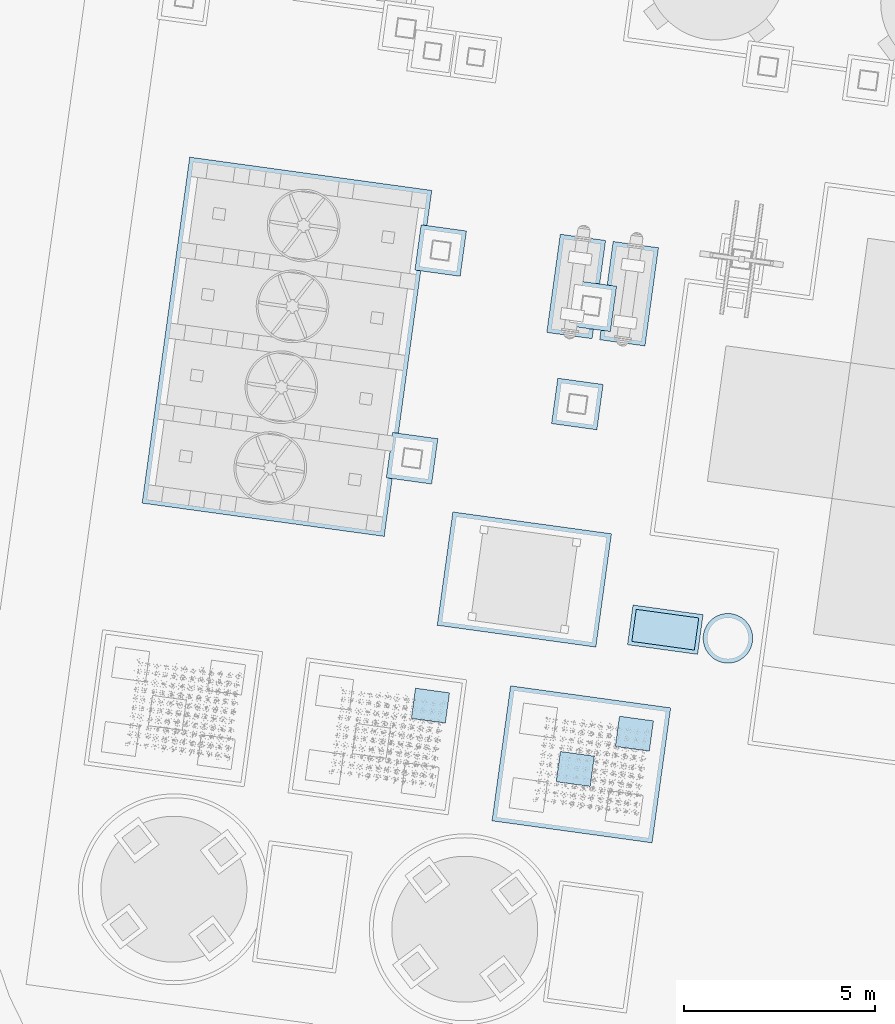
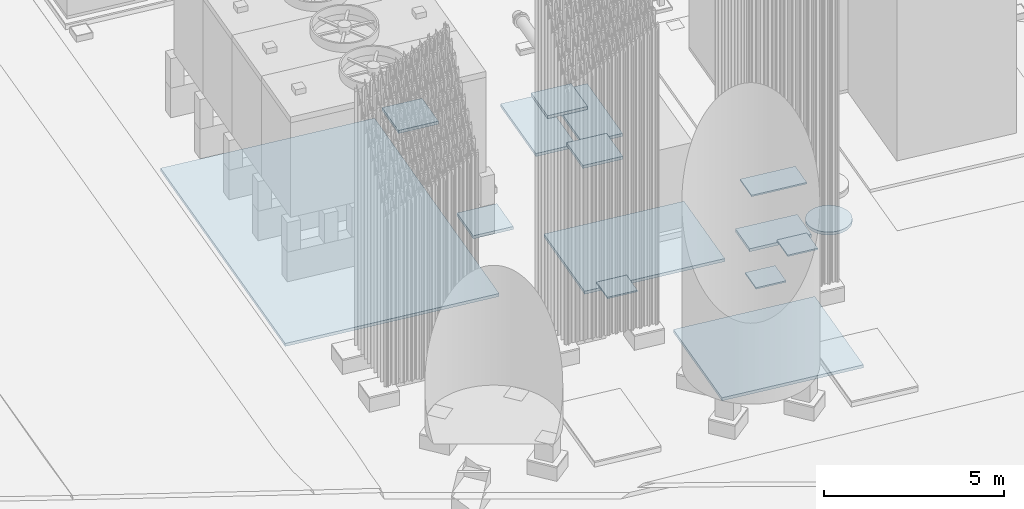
# Not in any storey, part 15 of 75: 15 slabs.
"""IFC4 model written with IfcOpenShell, lengths in metres."""

from ifc_helpers import new_model, si_unit, direction, origin, origin_with_axes, place, context, subcontext, project, spatial, triangles, material, element, save


model = new_model("IFC4")

# Units and contexts
model_context = context("Model", 3, precision=1e-05, world=origin_with_axes(), true_north=direction((0.0, 1.0)))
body_context = subcontext(model_context, "Body", "Model", "MODEL_VIEW")
ifc_project = project(units=[si_unit("AREAUNIT", "SQUARE_METRE"), si_unit("VOLUMEUNIT", "CUBIC_METRE"), si_unit("LENGTHUNIT", "METRE")], contexts=[model_context])

# Site
site_placement = place(None, origin_with_axes())
site = spatial("IfcSite", under=ifc_project, at=site_placement, Name="Parcela industrial Jinhong")

# Slabs
ifc_material_1 = material(Name="Hormigón de limpieza HA-20", Category="Material documentado")
slab_1_placement = place(None, origin())
element("IfcSlab", 1, at=slab_1_placement, inside=site, material=ifc_material_1, Name="Cimentación del evaporador de residuos · apoyo rectangular · capa de limpieza", ObjectType="Cimentación industrial", PredefinedType="USERDEFINED", context=body_context, shape_type="Tessellation", body=[
    triangles([(48.41861, 39.968507, 0.0), (50.113309, 38.675634, 0.0), (48.275596, 38.928292, 0.0), (50.256323, 39.715849, 0.0), (48.41861, 39.968507, 0.1), (50.113309, 38.675634, 0.1), (48.275596, 38.928292, 0.1), (50.256323, 39.715849, 0.1)], [[1, 2, 3], [2, 1, 4], [7, 6, 5], [8, 5, 6], [7, 5, 3], [3, 5, 1], [6, 7, 2], [2, 7, 3], [5, 8, 1], [1, 8, 4], [8, 6, 4], [4, 6, 2]], closed=True),
])
ifc_material_2 = material(Name="Mortero HA-35 de alta resistencia sin retracción", Category="Material documentado")
slab_2_placement = place(None, origin())
element("IfcSlab", 2, at=slab_2_placement, inside=site, material=ifc_material_2, Name="Cimentación del evaporador de residuos · apoyo rectangular · mortero superior de 50 mm", ObjectType="Cimentación industrial", PredefinedType="USERDEFINED", context=body_context, shape_type="Tessellation", body=[
    triangles([(50.027862, 38.788323, 1.77), (48.388285, 39.01374, 1.77), (48.504058, 39.855819, 1.77), (50.143635, 39.630401, 1.77), (50.027862, 38.788323, 1.82), (48.388285, 39.01374, 1.82), (48.504058, 39.855819, 1.82), (50.143635, 39.630401, 1.82)], [[1, 2, 3], [3, 4, 1], [7, 6, 5], [5, 8, 7], [5, 6, 1], [1, 6, 2], [6, 7, 2], [2, 7, 3], [8, 5, 4], [4, 5, 1], [7, 8, 3], [3, 8, 4]], closed=True),
])
slab_3_placement = place(None, origin())
element("IfcSlab", 3, at=slab_3_placement, inside=site, material=ifc_material_1, Name="Cimentación del evaporador de residuos · apoyo circular · capa de limpieza", ObjectType="Cimentación industrial", PredefinedType="USERDEFINED", context=body_context, shape_type="Tessellation", body=[
    triangles([(51.535894, 38.924347, 0.0), (51.54579, 38.965716, 0.0), (51.541181, 38.94495, 0.0), (51.523314, 38.883714, 0.0), (51.529937, 38.903927, 0.0), (51.508103, 38.843992, 0.0), (51.516034, 38.863728, 0.0), (51.490327, 38.805349, 0.0), (51.499531, 38.824525, 0.0), (51.459021, 38.749769, 0.0), (51.480499, 38.786483, 0.0), (51.470061, 38.76795, 0.0), (51.447392, 38.731959, 0.0), (51.435187, 38.714538, 0.0), (51.422419, 38.697526, 0.0), (51.4091, 38.680941, 0.0), (51.395246, 38.6648, 0.0), (51.380872, 38.649122, 0.0), (51.334781, 38.605024, 0.0), (51.267029, 38.553651, 0.0), (51.318482, 38.591355, 0.0), (51.301747, 38.578228, 0.0), (51.284589, 38.565655, 0.0), (51.23078, 38.531396, 0.0), (51.249087, 38.542226, 0.0), (51.212129, 38.52117, 0.0), (51.193153, 38.51156, 0.0), (51.173873, 38.502576, 0.0), (51.154308, 38.494227, 0.0), (51.134482, 38.486524, 0.0), (51.114414, 38.479473, 0.0), (51.094126, 38.473082, 0.0), (51.07364, 38.467358, 0.0), (51.052977, 38.462309, 0.0), (50.990155, 38.451249, 0.0), (51.032161, 38.457937, 0.0), (51.011212, 38.454249, 0.0), (50.9478, 38.447322, 0.0), (50.969009, 38.448939, 0.0), (50.905279, 38.446174, 0.0), (50.926549, 38.4464, 0.0), (50.862776, 38.44781, 0.0), (50.884014, 38.446644, 0.0), (50.82047, 38.452221, 0.0), (50.841587, 38.449669, 0.0), (50.778542, 38.45939, 0.0), (50.799447, 38.455463, 0.0), (50.737174, 38.469286, 0.0), (50.757777, 38.464, 0.0), (50.696541, 38.481867, 0.0), (50.716754, 38.475244, 0.0), (50.656818, 38.497078, 0.0), (50.676555, 38.489147, 0.0), (50.618175, 38.514854, 0.0), (50.637351, 38.505649, 0.0), (50.562596, 38.54616, 0.0), (50.59931, 38.524681, 0.0), (50.580777, 38.53512, 0.0), (50.544785, 38.557788, 0.0), (50.527365, 38.569993, 0.0), (50.510353, 38.582762, 0.0), (50.493768, 38.596081, 0.0), (50.44675, 38.639189, 0.0), (50.477628, 38.609934, 0.0), (50.461949, 38.624309, 0.0), (50.417851, 38.670401, 0.0), (50.432045, 38.654558, 0.0), (50.391055, 38.703435, 0.0), (50.404183, 38.686698, 0.0), (50.366478, 38.738151, 0.0), (50.378482, 38.720591, 0.0), (50.315403, 38.831308, 0.0), (50.355054, 38.756093, 0.0), (50.333997, 38.793052, 0.0), (50.344223, 38.7744, 0.0), (50.324387, 38.812028, 0.0), (50.292299, 38.890767, 0.0), (50.307055, 38.850872, 0.0), (50.299351, 38.870698, 0.0), (50.285909, 38.911054, 0.0), (50.280186, 38.931541, 0.0), (50.270764, 38.97302, 0.0), (50.275135, 38.952203, 0.0), (50.267077, 38.993969, 0.0), (50.264076, 39.015027, 0.0), (50.261766, 39.036172, 0.0), (50.260149, 39.05738, 0.0), (50.259227, 39.078631, 0.0), (50.260636, 39.142405, 0.0), (50.259001, 39.099901, 0.0), (50.259471, 39.121166, 0.0), (50.265048, 39.184711, 0.0), (50.262496, 39.163595, 0.0), (50.272217, 39.226638, 0.0), (50.268289, 39.205733, 0.0), (50.282113, 39.268007, 0.0), (50.276826, 39.247404, 0.0), (50.301974, 39.328625, 0.0), (50.288071, 39.288427, 0.0), (50.294693, 39.30864, 0.0), (50.309905, 39.348362, 0.0), (50.318477, 39.367829, 0.0), (50.347947, 39.424403, 0.0), (50.327681, 39.387005, 0.0), (50.337508, 39.405871, 0.0), (50.395589, 39.494828, 0.0), (50.358987, 39.442585, 0.0), (50.370615, 39.460395, 0.0), (50.38282, 39.477816, 0.0), (50.467385, 39.573136, 0.0), (50.408907, 39.511413, 0.0), (50.422761, 39.527554, 0.0), (50.437135, 39.543232, 0.0), (50.452015, 39.558432, 0.0), (50.516262, 39.614125, 0.0), (50.483227, 39.58733, 0.0), (50.499525, 39.600999, 0.0), (50.550978, 39.638703, 0.0), (50.533419, 39.626699, 0.0), (50.587228, 39.660958, 0.0), (50.568921, 39.650127, 0.0), (50.624855, 39.680794, 0.0), (50.605878, 39.671184, 0.0), (50.644135, 39.689777, 0.0), (50.663699, 39.698127, 0.0), (50.683526, 39.70583, 0.0), (50.703593, 39.712881, 0.0), (50.723882, 39.719271, 0.0), (50.744367, 39.724996, 0.0), (50.76503, 39.730045, 0.0), (50.827854, 39.741105, 0.0), (50.785847, 39.734417, 0.0), (50.806796, 39.738105, 0.0), (50.870207, 39.745031, 0.0), (50.848998, 39.743415, 0.0), (50.912728, 39.74618, 0.0), (50.891458, 39.745954, 0.0), (50.955232, 39.744544, 0.0), (50.933993, 39.74571, 0.0), (50.997538, 39.740133, 0.0), (50.976421, 39.742685, 0.0), (51.039466, 39.732963, 0.0), (51.018561, 39.736891, 0.0), (51.080833, 39.723068, 0.0), (51.06023, 39.728354, 0.0), (51.121467, 39.710487, 0.0), (51.101253, 39.71711, 0.0), (51.16119, 39.695276, 0.0), (51.141452, 39.703207, 0.0), (51.199833, 39.6775, 0.0), (51.180657, 39.686704, 0.0), (51.218697, 39.667673, 0.0), (51.23723, 39.657234, 0.0), (51.255412, 39.646194, 0.0), (51.273222, 39.634566, 0.0), (51.290643, 39.62236, 0.0), (51.307654, 39.609592, 0.0), (51.32424, 39.596273, 0.0), (51.34038, 39.58242, 0.0), (51.356059, 39.568045, 0.0), (51.400157, 39.521953, 0.0), (51.371259, 39.553165, 0.0), (51.385963, 39.537796, 0.0), (51.426953, 39.488919, 0.0), (51.413825, 39.505656, 0.0), (51.439525, 39.471762, 0.0), (51.473785, 39.417954, 0.0), (51.45153, 39.454203, 0.0), (51.462954, 39.436261, 0.0), (51.502604, 39.361046, 0.0), (51.484011, 39.399302, 0.0), (51.49362, 39.380326, 0.0), (51.510953, 39.341482, 0.0), (51.518657, 39.321656, 0.0), (51.525708, 39.301587, 0.0), (51.532098, 39.2813, 0.0), (51.537822, 39.260813, 0.0), (51.542872, 39.240151, 0.0), (51.553931, 39.177327, 0.0), (51.547243, 39.219333, 0.0), (51.550931, 39.198385, 0.0), (51.557858, 39.134973, 0.0), (51.556242, 39.156182, 0.0), (51.559006, 39.092453, 0.0), (51.55878, 39.113723, 0.0), (51.557371, 39.049948, 0.0), (51.558537, 39.071188, 0.0), (51.552959, 39.007642, 0.0), (51.555511, 39.028759, 0.0), (51.549718, 38.986621, 0.0), (51.365992, 38.633922, 0.0), (51.350623, 38.619217, 0.0), (51.535894, 38.924347, 0.1), (51.54579, 38.965716, 0.1), (51.541181, 38.94495, 0.1), (51.523314, 38.883714, 0.1), (51.529937, 38.903927, 0.1), (51.508103, 38.843992, 0.1), (51.516034, 38.863728, 0.1), (51.490327, 38.805349, 0.1), (51.499531, 38.824525, 0.1), (51.459021, 38.749769, 0.1), (51.480499, 38.786483, 0.1), (51.470061, 38.76795, 0.1), (51.447392, 38.731959, 0.1), (51.435187, 38.714538, 0.1), (51.422419, 38.697526, 0.1), (51.4091, 38.680941, 0.1), (51.395246, 38.6648, 0.1), (51.380872, 38.649122, 0.1), (51.334781, 38.605024, 0.1), (51.267029, 38.553651, 0.1), (51.318482, 38.591355, 0.1), (51.301747, 38.578228, 0.1), (51.284589, 38.565655, 0.1), (51.23078, 38.531396, 0.1), (51.249087, 38.542226, 0.1), (51.212129, 38.52117, 0.1), (51.193153, 38.51156, 0.1), (51.173873, 38.502576, 0.1), (51.154308, 38.494227, 0.1), (51.134482, 38.486524, 0.1), (51.114414, 38.479473, 0.1), (51.094126, 38.473082, 0.1), (51.07364, 38.467358, 0.1), (51.052977, 38.462309, 0.1), (50.990155, 38.451249, 0.1), (51.032161, 38.457937, 0.1), (51.011212, 38.454249, 0.1), (50.9478, 38.447322, 0.1), (50.969009, 38.448939, 0.1), (50.905279, 38.446174, 0.1), (50.926549, 38.4464, 0.1), (50.862776, 38.44781, 0.1), (50.884014, 38.446644, 0.1), (50.82047, 38.452221, 0.1), (50.841587, 38.449669, 0.1), (50.778542, 38.45939, 0.1), (50.799447, 38.455463, 0.1), (50.737174, 38.469286, 0.1), (50.757777, 38.464, 0.1), (50.696541, 38.481867, 0.1), (50.716754, 38.475244, 0.1), (50.656818, 38.497078, 0.1), (50.676555, 38.489147, 0.1), (50.618175, 38.514854, 0.1), (50.637351, 38.505649, 0.1), (50.562596, 38.54616, 0.1), (50.59931, 38.524681, 0.1), (50.580777, 38.53512, 0.1), (50.544785, 38.557788, 0.1), (50.527365, 38.569993, 0.1), (50.510353, 38.582762, 0.1), (50.493768, 38.596081, 0.1), (50.44675, 38.639189, 0.1), (50.477628, 38.609934, 0.1), (50.461949, 38.624309, 0.1), (50.417851, 38.670401, 0.1), (50.432045, 38.654558, 0.1), (50.391055, 38.703435, 0.1), (50.404183, 38.686698, 0.1), (50.366478, 38.738151, 0.1), (50.378482, 38.720591, 0.1), (50.315403, 38.831308, 0.1), (50.355054, 38.756093, 0.1), (50.333997, 38.793052, 0.1), (50.344223, 38.7744, 0.1), (50.324387, 38.812028, 0.1), (50.292299, 38.890767, 0.1), (50.307055, 38.850872, 0.1), (50.299351, 38.870698, 0.1), (50.285909, 38.911054, 0.1), (50.280186, 38.931541, 0.1), (50.270764, 38.97302, 0.1), (50.275135, 38.952203, 0.1), (50.267077, 38.993969, 0.1), (50.264076, 39.015027, 0.1), (50.261766, 39.036172, 0.1), (50.260149, 39.05738, 0.1), (50.259227, 39.078631, 0.1), (50.260636, 39.142405, 0.1), (50.259001, 39.099901, 0.1), (50.259471, 39.121166, 0.1), (50.265048, 39.184711, 0.1), (50.262496, 39.163595, 0.1), (50.272217, 39.226638, 0.1), (50.268289, 39.205733, 0.1), (50.282113, 39.268007, 0.1), (50.276826, 39.247404, 0.1), (50.301974, 39.328625, 0.1), (50.288071, 39.288427, 0.1), (50.294693, 39.30864, 0.1), (50.309905, 39.348362, 0.1), (50.318477, 39.367829, 0.1), (50.347947, 39.424403, 0.1), (50.327681, 39.387005, 0.1), (50.337508, 39.405871, 0.1), (50.395589, 39.494828, 0.1), (50.358987, 39.442585, 0.1), (50.370615, 39.460395, 0.1), (50.38282, 39.477816, 0.1), (50.467385, 39.573136, 0.1), (50.408907, 39.511413, 0.1), (50.422761, 39.527554, 0.1), (50.437135, 39.543232, 0.1), (50.452015, 39.558432, 0.1), (50.516262, 39.614125, 0.1), (50.483227, 39.58733, 0.1), (50.499525, 39.600999, 0.1), (50.550978, 39.638703, 0.1), (50.533419, 39.626699, 0.1), (50.587228, 39.660958, 0.1), (50.568921, 39.650127, 0.1), (50.624855, 39.680794, 0.1), (50.605878, 39.671184, 0.1), (50.644135, 39.689777, 0.1), (50.663699, 39.698127, 0.1), (50.683526, 39.70583, 0.1), (50.703593, 39.712881, 0.1), (50.723882, 39.719271, 0.1), (50.744367, 39.724996, 0.1), (50.76503, 39.730045, 0.1), (50.827854, 39.741105, 0.1), (50.785847, 39.734417, 0.1), (50.806796, 39.738105, 0.1), (50.870207, 39.745031, 0.1), (50.848998, 39.743415, 0.1), (50.912728, 39.74618, 0.1), (50.891458, 39.745954, 0.1), (50.955232, 39.744544, 0.1), (50.933993, 39.74571, 0.1), (50.997538, 39.740133, 0.1), (50.976421, 39.742685, 0.1), (51.039466, 39.732963, 0.1), (51.018561, 39.736891, 0.1), (51.080833, 39.723068, 0.1), (51.06023, 39.728354, 0.1), (51.121467, 39.710487, 0.1), (51.101253, 39.71711, 0.1), (51.16119, 39.695276, 0.1), (51.141452, 39.703207, 0.1), (51.199833, 39.6775, 0.1), (51.180657, 39.686704, 0.1), (51.218697, 39.667673, 0.1), (51.23723, 39.657234, 0.1), (51.255412, 39.646194, 0.1), (51.273222, 39.634566, 0.1), (51.290643, 39.62236, 0.1), (51.307654, 39.609592, 0.1), (51.32424, 39.596273, 0.1), (51.34038, 39.58242, 0.1), (51.356059, 39.568045, 0.1), (51.400157, 39.521953, 0.1), (51.371259, 39.553165, 0.1), (51.385963, 39.537796, 0.1), (51.426953, 39.488919, 0.1), (51.413825, 39.505656, 0.1), (51.439525, 39.471762, 0.1), (51.473785, 39.417954, 0.1), (51.45153, 39.454203, 0.1), (51.462954, 39.436261, 0.1), (51.502604, 39.361046, 0.1), (51.484011, 39.399302, 0.1), (51.49362, 39.380326, 0.1), (51.510953, 39.341482, 0.1), (51.518657, 39.321656, 0.1), (51.525708, 39.301587, 0.1), (51.532098, 39.2813, 0.1), (51.537822, 39.260813, 0.1), (51.542872, 39.240151, 0.1), (51.553931, 39.177327, 0.1), (51.547243, 39.219333, 0.1), (51.550931, 39.198385, 0.1), (51.557858, 39.134973, 0.1), (51.556242, 39.156182, 0.1), (51.559006, 39.092453, 0.1), (51.55878, 39.113723, 0.1), (51.557371, 39.049948, 0.1), (51.558537, 39.071188, 0.1), (51.552959, 39.007642, 0.1), (51.555511, 39.028759, 0.1), (51.549718, 38.986621, 0.1), (51.365992, 38.633922, 0.1), (51.350623, 38.619217, 0.1)], [[1, 2, 3], [4, 1, 5], [6, 4, 7], [8, 6, 9], [10, 8, 11], [11, 12, 10], [10, 13, 14], [14, 15, 16], [16, 17, 18], [16, 19, 20], [20, 21, 22], [20, 22, 23], [24, 20, 25], [20, 24, 26], [26, 27, 28], [28, 29, 30], [30, 31, 32], [32, 33, 34], [35, 36, 37], [38, 35, 39], [40, 38, 41], [42, 40, 43], [44, 42, 45], [46, 44, 47], [48, 46, 49], [50, 48, 51], [52, 50, 53], [54, 52, 55], [56, 54, 57], [57, 58, 56], [56, 59, 60], [60, 61, 62], [63, 64, 65], [66, 63, 67], [68, 66, 69], [70, 68, 71], [72, 73, 74], [73, 75, 74], [74, 76, 72], [77, 78, 79], [78, 80, 81], [82, 81, 83], [81, 82, 84], [84, 85, 86], [86, 87, 88], [89, 90, 91], [92, 89, 93], [94, 92, 95], [96, 94, 97], [98, 96, 99], [99, 100, 98], [98, 101, 102], [103, 104, 105], [106, 103, 107], [106, 108, 109], [110, 106, 111], [111, 112, 113], [113, 114, 110], [115, 116, 117], [118, 115, 119], [120, 118, 121], [122, 120, 123], [120, 122, 124], [124, 125, 126], [126, 127, 128], [128, 129, 130], [131, 132, 133], [134, 131, 135], [136, 134, 137], [138, 136, 139], [140, 138, 141], [142, 140, 143], [144, 142, 145], [146, 144, 147], [148, 146, 149], [150, 148, 151], [148, 150, 152], [152, 153, 154], [154, 155, 156], [156, 157, 158], [158, 159, 160], [161, 162, 163], [164, 161, 165], [161, 164, 166], [167, 168, 169], [170, 167, 171], [171, 172, 170], [170, 173, 174], [174, 175, 176], [176, 177, 178], [179, 180, 181], [182, 179, 183], [184, 182, 185], [186, 184, 187], [188, 186, 189], [2, 188, 190], [1, 4, 2], [6, 2, 4], [6, 16, 20], [10, 14, 16], [191, 16, 18], [21, 20, 19], [28, 20, 26], [32, 28, 30], [35, 32, 34], [35, 34, 36], [40, 42, 38], [52, 62, 46], [48, 50, 46], [52, 46, 50], [20, 46, 62], [56, 60, 62], [63, 62, 64], [62, 66, 68], [73, 78, 70], [73, 72, 78], [80, 78, 77], [84, 78, 81], [90, 86, 88], [92, 94, 89], [96, 98, 94], [86, 98, 102], [104, 103, 102], [108, 106, 107], [111, 113, 110], [106, 124, 102], [124, 118, 120], [128, 124, 126], [132, 128, 130], [128, 132, 131], [136, 138, 134], [140, 142, 138], [144, 146, 142], [148, 142, 146], [148, 161, 142], [154, 156, 158], [161, 160, 162], [168, 161, 166], [167, 170, 168], [176, 170, 174], [180, 176, 178], [176, 180, 179], [184, 186, 182], [188, 2, 186], [10, 6, 8], [16, 6, 10], [19, 191, 192], [28, 32, 20], [42, 35, 38], [20, 35, 42], [56, 52, 54], [44, 46, 42], [63, 66, 62], [68, 70, 78], [102, 84, 86], [90, 89, 86], [115, 106, 116], [106, 102, 103], [106, 110, 116], [115, 118, 124], [138, 131, 134], [142, 161, 138], [154, 148, 152], [154, 161, 148], [160, 161, 158], [161, 168, 170], [186, 179, 182], [2, 179, 186], [62, 161, 20], [19, 16, 191], [46, 20, 42], [62, 52, 56], [62, 78, 84], [98, 89, 94], [124, 106, 115], [62, 102, 124], [124, 138, 161], [161, 154, 158], [179, 170, 176], [179, 161, 170], [179, 2, 6], [35, 20, 32], [78, 62, 68], [102, 62, 84], [138, 124, 131], [20, 161, 179], [161, 62, 124], [89, 98, 86], [131, 124, 128], [20, 179, 6], [195, 194, 193], [197, 193, 196], [199, 196, 198], [201, 198, 200], [203, 200, 202], [202, 204, 203], [206, 205, 202], [208, 207, 206], [210, 209, 208], [212, 211, 208], [214, 213, 212], [215, 214, 212], [217, 212, 216], [218, 216, 212], [220, 219, 218], [222, 221, 220], [224, 223, 222], [226, 225, 224], [229, 228, 227], [231, 227, 230], [233, 230, 232], [235, 232, 234], [237, 234, 236], [239, 236, 238], [241, 238, 240], [243, 240, 242], [245, 242, 244], [247, 244, 246], [249, 246, 248], [248, 250, 249], [252, 251, 248], [254, 253, 252], [257, 256, 255], [259, 255, 258], [261, 258, 260], [263, 260, 262], [266, 265, 264], [266, 267, 265], [264, 268, 266], [271, 270, 269], [273, 272, 270], [275, 273, 274], [276, 274, 273], [278, 277, 276], [280, 279, 278], [283, 282, 281], [285, 281, 284], [287, 284, 286], [289, 286, 288], [291, 288, 290], [290, 292, 291], [294, 293, 290], [297, 296, 295], [299, 295, 298], [301, 300, 298], [303, 298, 302], [305, 304, 303], [302, 306, 305], [309, 308, 307], [311, 307, 310], [313, 310, 312], [315, 312, 314], [316, 314, 312], [318, 317, 316], [320, 319, 318], [322, 321, 320], [325, 324, 323], [327, 323, 326], [329, 326, 328], [331, 328, 330], [333, 330, 332], [335, 332, 334], [337, 334, 336], [339, 336, 338], [341, 338, 340], [343, 340, 342], [344, 342, 340], [346, 345, 344], [348, 347, 346], [350, 349, 348], [352, 351, 350], [355, 354, 353], [357, 353, 356], [358, 356, 353], [361, 360, 359], [363, 359, 362], [362, 364, 363], [366, 365, 362], [368, 367, 366], [370, 369, 368], [373, 372, 371], [375, 371, 374], [377, 374, 376], [379, 376, 378], [381, 378, 380], [382, 380, 194], [194, 196, 193], [196, 194, 198], [212, 208, 198], [208, 206, 202], [210, 208, 383], [211, 212, 213], [218, 212, 220], [222, 220, 224], [226, 224, 227], [228, 226, 227], [230, 234, 232], [238, 254, 244], [238, 242, 240], [242, 238, 244], [254, 238, 212], [254, 252, 248], [256, 254, 255], [260, 258, 254], [262, 270, 265], [270, 264, 265], [269, 270, 272], [273, 270, 276], [280, 278, 282], [281, 286, 284], [286, 290, 288], [294, 290, 278], [294, 295, 296], [299, 298, 300], [302, 305, 303], [294, 316, 298], [312, 310, 316], [318, 316, 320], [322, 320, 324], [323, 324, 320], [326, 330, 328], [330, 334, 332], [334, 338, 336], [338, 334, 340], [334, 353, 340], [350, 348, 346], [354, 352, 353], [358, 353, 360], [360, 362, 359], [366, 362, 368], [370, 368, 372], [371, 372, 368], [374, 378, 376], [378, 194, 380], [200, 198, 202], [202, 198, 208], [384, 383, 211], [212, 224, 220], [230, 227, 234], [234, 227, 212], [246, 244, 248], [234, 238, 236], [254, 258, 255], [270, 262, 260], [278, 276, 294], [278, 281, 282], [308, 298, 307], [295, 294, 298], [308, 302, 298], [316, 310, 307], [326, 323, 330], [330, 353, 334], [344, 340, 346], [340, 353, 346], [350, 353, 352], [362, 360, 353], [374, 371, 378], [378, 371, 194], [212, 353, 254], [383, 208, 211], [234, 212, 238], [248, 244, 254], [276, 270, 254], [286, 281, 290], [307, 298, 316], [316, 294, 254], [353, 330, 316], [350, 346, 353], [368, 362, 371], [362, 353, 371], [198, 194, 371], [224, 212, 227], [260, 254, 270], [276, 254, 294], [323, 316, 330], [371, 353, 212], [316, 254, 353], [278, 290, 281], [320, 316, 323], [198, 371, 212], [195, 193, 3], [3, 193, 1], [194, 195, 2], [2, 195, 3], [193, 197, 1], [1, 197, 5], [197, 196, 5], [5, 196, 4], [196, 199, 4], [4, 199, 7], [199, 198, 7], [7, 198, 6], [198, 201, 6], [6, 201, 9], [201, 200, 9], [9, 200, 8], [200, 203, 8], [8, 203, 11], [204, 202, 12], [12, 202, 10], [203, 204, 11], [11, 204, 12], [202, 205, 10], [10, 205, 13], [205, 206, 13], [13, 206, 14], [206, 207, 14], [14, 207, 15], [207, 208, 15], [15, 208, 16], [208, 209, 16], [16, 209, 17], [209, 210, 17], [17, 210, 18], [211, 213, 19], [19, 213, 21], [213, 214, 21], [21, 214, 22], [215, 212, 23], [23, 212, 20], [214, 215, 22], [22, 215, 23], [212, 217, 20], [20, 217, 25], [217, 216, 25], [25, 216, 24], [216, 218, 24], [24, 218, 26], [218, 219, 26], [26, 219, 27], [219, 220, 27], [27, 220, 28], [220, 221, 28], [28, 221, 29], [221, 222, 29], [29, 222, 30], [222, 223, 30], [30, 223, 31], [223, 224, 31], [31, 224, 32], [224, 225, 32], [32, 225, 33], [225, 226, 33], [33, 226, 34], [226, 228, 34], [34, 228, 36], [229, 227, 37], [37, 227, 35], [228, 229, 36], [36, 229, 37], [227, 231, 35], [35, 231, 39], [231, 230, 39], [39, 230, 38], [230, 233, 38], [38, 233, 41], [233, 232, 41], [41, 232, 40], [232, 235, 40], [40, 235, 43], [235, 234, 43], [43, 234, 42], [234, 237, 42], [42, 237, 45], [237, 236, 45], [45, 236, 44], [236, 239, 44], [44, 239, 47], [239, 238, 47], [47, 238, 46], [238, 241, 46], [46, 241, 49], [241, 240, 49], [49, 240, 48], [240, 243, 48], [48, 243, 51], [243, 242, 51], [51, 242, 50], [242, 245, 50], [50, 245, 53], [245, 244, 53], [53, 244, 52], [244, 247, 52], [52, 247, 55], [247, 246, 55], [55, 246, 54], [246, 249, 54], [54, 249, 57], [250, 248, 58], [58, 248, 56], [249, 250, 57], [57, 250, 58], [248, 251, 56], [56, 251, 59], [251, 252, 59], [59, 252, 60], [252, 253, 60], [60, 253, 61], [253, 254, 61], [61, 254, 62], [254, 256, 62], [62, 256, 64], [257, 255, 65], [65, 255, 63], [256, 257, 64], [64, 257, 65], [255, 259, 63], [63, 259, 67], [259, 258, 67], [67, 258, 66], [258, 261, 66], [66, 261, 69], [261, 260, 69], [69, 260, 68], [260, 263, 68], [68, 263, 71], [263, 262, 71], [71, 262, 70], [262, 265, 70], [70, 265, 73], [265, 267, 73], [73, 267, 75], [267, 266, 75], [75, 266, 74], [268, 264, 76], [76, 264, 72], [266, 268, 74], [74, 268, 76], [264, 270, 72], [72, 270, 78], [271, 269, 79], [79, 269, 77], [270, 271, 78], [78, 271, 79], [269, 272, 77], [77, 272, 80], [272, 273, 80], [80, 273, 81], [273, 275, 81], [81, 275, 83], [275, 274, 83], [83, 274, 82], [274, 276, 82], [82, 276, 84], [276, 277, 84], [84, 277, 85], [277, 278, 85], [85, 278, 86], [278, 279, 86], [86, 279, 87], [279, 280, 87], [87, 280, 88], [280, 282, 88], [88, 282, 90], [283, 281, 91], [91, 281, 89], [282, 283, 90], [90, 283, 91], [281, 285, 89], [89, 285, 93], [285, 284, 93], [93, 284, 92], [284, 287, 92], [92, 287, 95], [287, 286, 95], [95, 286, 94], [286, 289, 94], [94, 289, 97], [289, 288, 97], [97, 288, 96], [288, 291, 96], [96, 291, 99], [292, 290, 100], [100, 290, 98], [291, 292, 99], [99, 292, 100], [290, 293, 98], [98, 293, 101], [293, 294, 101], [101, 294, 102], [294, 296, 102], [102, 296, 104], [297, 295, 105], [105, 295, 103], [296, 297, 104], [104, 297, 105], [295, 299, 103], [103, 299, 107], [299, 300, 107], [107, 300, 108], [301, 298, 109], [109, 298, 106], [300, 301, 108], [108, 301, 109], [298, 303, 106], [106, 303, 111], [303, 304, 111], [111, 304, 112], [304, 305, 112], [112, 305, 113], [306, 302, 114], [114, 302, 110], [305, 306, 113], [113, 306, 114], [302, 308, 110], [110, 308, 116], [309, 307, 117], [117, 307, 115], [308, 309, 116], [116, 309, 117], [307, 311, 115], [115, 311, 119], [311, 310, 119], [119, 310, 118], [310, 313, 118], [118, 313, 121], [313, 312, 121], [121, 312, 120], [312, 315, 120], [120, 315, 123], [315, 314, 123], [123, 314, 122], [314, 316, 122], [122, 316, 124], [316, 317, 124], [124, 317, 125], [317, 318, 125], [125, 318, 126], [318, 319, 126], [126, 319, 127], [319, 320, 127], [127, 320, 128], [320, 321, 128], [128, 321, 129], [321, 322, 129], [129, 322, 130], [322, 324, 130], [130, 324, 132], [325, 323, 133], [133, 323, 131], [324, 325, 132], [132, 325, 133], [323, 327, 131], [131, 327, 135], [327, 326, 135], [135, 326, 134], [326, 329, 134], [134, 329, 137], [329, 328, 137], [137, 328, 136], [328, 331, 136], [136, 331, 139], [331, 330, 139], [139, 330, 138], [330, 333, 138], [138, 333, 141], [333, 332, 141], [141, 332, 140], [332, 335, 140], [140, 335, 143], [335, 334, 143], [143, 334, 142], [334, 337, 142], [142, 337, 145], [337, 336, 145], [145, 336, 144], [336, 339, 144], [144, 339, 147], [339, 338, 147], [147, 338, 146], [338, 341, 146], [146, 341, 149], [341, 340, 149], [149, 340, 148], [340, 343, 148], [148, 343, 151], [343, 342, 151], [151, 342, 150], [342, 344, 150], [150, 344, 152], [344, 345, 152], [152, 345, 153], [345, 346, 153], [153, 346, 154], [346, 347, 154], [154, 347, 155], [347, 348, 155], [155, 348, 156], [348, 349, 156], [156, 349, 157], [349, 350, 157], [157, 350, 158], [350, 351, 158], [158, 351, 159], [351, 352, 159], [159, 352, 160], [352, 354, 160], [160, 354, 162], [355, 353, 163], [163, 353, 161], [354, 355, 162], [162, 355, 163], [353, 357, 161], [161, 357, 165], [357, 356, 165], [165, 356, 164], [356, 358, 164], [164, 358, 166], [358, 360, 166], [166, 360, 168], [361, 359, 169], [169, 359, 167], [360, 361, 168], [168, 361, 169], [359, 363, 167], [167, 363, 171], [364, 362, 172], [172, 362, 170], [363, 364, 171], [171, 364, 172], [362, 365, 170], [170, 365, 173], [365, 366, 173], [173, 366, 174], [366, 367, 174], [174, 367, 175], [367, 368, 175], [175, 368, 176], [368, 369, 176], [176, 369, 177], [369, 370, 177], [177, 370, 178], [370, 372, 178], [178, 372, 180], [373, 371, 181], [181, 371, 179], [372, 373, 180], [180, 373, 181], [371, 375, 179], [179, 375, 183], [375, 374, 183], [183, 374, 182], [374, 377, 182], [182, 377, 185], [377, 376, 185], [185, 376, 184], [376, 379, 184], [184, 379, 187], [379, 378, 187], [187, 378, 186], [378, 381, 186], [186, 381, 189], [381, 380, 189], [189, 380, 188], [382, 194, 190], [190, 194, 2], [380, 382, 188], [188, 382, 190], [210, 383, 18], [18, 383, 191], [384, 211, 192], [192, 211, 19], [383, 384, 191], [191, 384, 192]], closed=True),
])
slab_4_placement = place(None, origin())
element("IfcSlab", 4, at=slab_4_placement, inside=site, material=ifc_material_1, Name="Cimentación del posenfriador WE441-PLAN · capa de limpieza", ObjectType="Cimentación industrial", PredefinedType="USERDEFINED", context=body_context, shape_type="Tessellation", body=[
    triangles([(46.157285, 47.118274, -1.0), (46.511415, 49.694044, -1.0), (47.700232, 49.530599, -1.0), (47.346102, 46.954829, -1.0), (46.157285, 47.118274, -0.9), (46.511415, 49.694044, -0.9), (47.700232, 49.530599, -0.9), (47.346102, 46.954829, -0.9)], [[1, 2, 3], [3, 4, 1], [7, 6, 5], [5, 8, 7], [5, 6, 1], [1, 6, 2], [6, 7, 2], [2, 7, 3], [8, 5, 4], [4, 5, 1], [7, 8, 3], [3, 8, 4]], closed=True),
])
slab_5_placement = place(None, origin())
element("IfcSlab", 5, at=slab_5_placement, inside=site, material=ifc_material_1, Name="Cimentación del posenfriador WE442-PLAN · capa de limpieza", ObjectType="Cimentación industrial", PredefinedType="USERDEFINED", context=body_context, shape_type="Tessellation", body=[
    triangles([(47.544238, 46.927588, -1.0), (47.898368, 49.503358, -1.0), (49.087185, 49.339913, -1.0), (48.733055, 46.764143, -1.0), (47.544238, 46.927588, -0.9), (47.898368, 49.503358, -0.9), (49.087185, 49.339913, -0.9), (48.733055, 46.764143, -0.9)], [[1, 2, 3], [3, 4, 1], [7, 6, 5], [5, 8, 7], [5, 6, 1], [1, 6, 2], [6, 7, 2], [2, 7, 3], [8, 5, 4], [4, 5, 1], [7, 8, 3], [3, 8, 4]], closed=True),
])
slab_6_placement = place(None, origin())
element("IfcSlab", 6, at=slab_6_placement, inside=site, material=ifc_material_2, Name="Cimentación del vaporizador LV1802B · mortero de apoyo 2", ObjectType="Cimentación industrial", PredefinedType="USERDEFINED", context=body_context, shape_type="Tessellation", body=[
    triangles([(43.605992, 37.665408, 1.565), (43.497028, 36.872863, 1.565), (42.605416, 36.995447, 1.565), (42.714379, 37.787991, 1.565), (43.605992, 37.665408, 1.615), (43.497028, 36.872863, 1.615), (42.605416, 36.995447, 1.615), (42.714379, 37.787991, 1.615)], [[1, 2, 3], [3, 4, 1], [7, 6, 5], [5, 8, 7], [5, 6, 1], [1, 6, 2], [6, 7, 2], [2, 7, 3], [8, 5, 4], [4, 5, 1], [7, 8, 3], [3, 8, 4]], closed=True),
])
slab_7_placement = place(None, origin())
element("IfcSlab", 7, at=slab_7_placement, inside=site, material=ifc_material_1, Name="Cimentación del vaporizador LV1802C · capa de limpieza", ObjectType="Cimentación industrial", PredefinedType="USERDEFINED", context=body_context, shape_type="Tessellation", body=[
    triangles([(49.406422, 37.271697, -1.0), (48.919629, 33.731004, -1.0), (44.721124, 34.308236, -1.0), (45.207917, 37.84893, -1.0), (49.406422, 37.271697, -0.9), (48.919629, 33.731004, -0.9), (44.721124, 34.308236, -0.9), (45.207917, 37.84893, -0.9)], [[1, 2, 3], [3, 4, 1], [7, 6, 5], [5, 8, 7], [5, 6, 1], [1, 6, 2], [6, 7, 2], [2, 7, 3], [8, 5, 4], [4, 5, 1], [7, 8, 3], [3, 8, 4]], closed=True),
])
slab_8_placement = place(None, origin())
element("IfcSlab", 8, at=slab_8_placement, inside=site, material=ifc_material_2, Name="Cimentación del vaporizador LV1802C · mortero de apoyo 2", ObjectType="Cimentación industrial", PredefinedType="USERDEFINED", context=body_context, shape_type="Tessellation", body=[
    triangles([(48.955668, 36.929907, 1.565), (48.846705, 36.137362, 1.565), (47.955092, 36.259945, 1.565), (48.064055, 37.05249, 1.565), (48.955668, 36.929907, 1.615), (48.846705, 36.137362, 1.615), (47.955092, 36.259945, 1.615), (48.064055, 37.05249, 1.615)], [[1, 2, 3], [3, 4, 1], [7, 6, 5], [5, 8, 7], [5, 6, 1], [1, 6, 2], [6, 7, 2], [2, 7, 3], [8, 5, 4], [4, 5, 1], [7, 8, 3], [3, 8, 4]], closed=True),
])
slab_9_placement = place(None, origin())
element("IfcSlab", 9, at=slab_9_placement, inside=site, material=ifc_material_2, Name="Cimentación del vaporizador LV1802C · mortero de apoyo 5", ObjectType="Cimentación industrial", PredefinedType="USERDEFINED", context=body_context, shape_type="Tessellation", body=[
    triangles([(47.40517, 36.004466, 1.565), (47.296207, 35.211921, 1.565), (46.404594, 35.334505, 1.565), (46.513557, 36.12705, 1.565), (47.40517, 36.004466, 1.615), (47.296207, 35.211921, 1.615), (46.404594, 35.334505, 1.615), (46.513557, 36.12705, 1.615)], [[1, 2, 3], [3, 4, 1], [7, 6, 5], [5, 8, 7], [5, 6, 1], [1, 6, 2], [6, 7, 2], [2, 7, 3], [8, 5, 4], [4, 5, 1], [7, 8, 3], [3, 8, 4]], closed=True),
])
slab_10_placement = place(None, origin())
element("IfcSlab", 10, at=slab_10_placement, inside=site, material=ifc_material_1, Name="Cimentación común de torres de refrigeración · capa de limpieza", ObjectType="Cimentación industrial", PredefinedType="USERDEFINED", context=body_context, shape_type="Tessellation", body=[
    triangles([(43.141568, 50.843473, -1.0), (35.543676, 42.641904, -1.0), (36.791304, 51.71654, -1.0), (41.89394, 41.768837, -1.0), (43.141568, 50.843473, -0.9), (35.543676, 42.641904, -0.9), (36.791304, 51.71654, -0.9), (41.89394, 41.768837, -0.9)], [[1, 2, 3], [2, 1, 4], [7, 6, 5], [8, 5, 6], [7, 5, 3], [3, 5, 1], [6, 7, 2], [2, 7, 3], [5, 8, 1], [1, 8, 4], [8, 6, 4], [4, 6, 2]], closed=True),
])
slab_11_placement = place(None, origin())
element("IfcSlab", 11, at=slab_11_placement, inside=site, material=ifc_material_1, Name="Base de la caseta de analizadores · capa de limpieza", ObjectType="Cimentación industrial", PredefinedType="USERDEFINED", context=body_context, shape_type="Tessellation", body=[
    triangles([(43.284391, 39.437728, 0.0), (43.693003, 42.40977, 0.0), (47.853863, 41.837714, 0.0), (47.445251, 38.865671, 0.0), (43.284391, 39.437728, 0.1), (43.693003, 42.40977, 0.1), (47.853863, 41.837714, 0.1), (47.445251, 38.865671, 0.1)], [[1, 2, 3], [3, 4, 1], [7, 6, 5], [5, 8, 7], [5, 6, 1], [1, 6, 2], [6, 7, 2], [2, 7, 3], [8, 5, 4], [4, 5, 1], [7, 8, 3], [3, 8, 4]], closed=True),
])
slab_12_placement = place(None, origin())
element("IfcSlab", 12, at=slab_12_placement, inside=site, material=ifc_material_1, Name="Cimentación de soporte de tuberías C29 · capa de limpieza", ObjectType="Cimentación industrial", PredefinedType="USERDEFINED", context=body_context, shape_type="Tessellation", body=[
    triangles([(42.697898, 48.754434, 0.0), (42.861343, 49.943251, 0.0), (44.05016, 49.779807, 0.0), (43.886715, 48.59099, 0.0), (42.697898, 48.754434, 0.1), (42.861343, 49.943251, 0.1), (44.05016, 49.779807, 0.1), (43.886715, 48.59099, 0.1)], [[1, 2, 3], [3, 4, 1], [7, 6, 5], [5, 8, 7], [5, 6, 1], [1, 6, 2], [6, 7, 2], [2, 7, 3], [8, 5, 4], [4, 5, 1], [7, 8, 3], [3, 8, 4]], closed=True),
])
slab_13_placement = place(None, origin())
element("IfcSlab", 13, at=slab_13_placement, inside=site, material=ifc_material_1, Name="Cimentación de soporte de tuberías C30 · capa de limpieza", ObjectType="Cimentación industrial", PredefinedType="USERDEFINED", context=body_context, shape_type="Tessellation", body=[
    triangles([(41.948776, 43.30569, 0.0), (42.112221, 44.494507, 0.0), (43.301038, 44.331062, 0.0), (43.137593, 43.142245, 0.0), (41.948776, 43.30569, 0.1), (42.112221, 44.494507, 0.1), (43.301038, 44.331062, 0.1), (43.137593, 43.142245, 0.1)], [[1, 2, 3], [3, 4, 1], [7, 6, 5], [5, 8, 7], [5, 6, 1], [1, 6, 2], [6, 7, 2], [2, 7, 3], [8, 5, 4], [4, 5, 1], [7, 8, 3], [3, 8, 4]], closed=True),
])
slab_14_placement = place(None, origin())
element("IfcSlab", 14, at=slab_14_placement, inside=site, material=ifc_material_1, Name="Cimentación de soporte de tuberías C31 · capa de limpieza", ObjectType="Cimentación industrial", PredefinedType="USERDEFINED", context=body_context, shape_type="Tessellation", body=[
    triangles([(46.637106, 47.304385, 0.0), (46.80055, 48.493202, 0.0), (47.989367, 48.329758, 0.0), (47.825923, 47.140941, 0.0), (46.637106, 47.304385, 0.1), (46.80055, 48.493202, 0.1), (47.989367, 48.329758, 0.1), (47.825923, 47.140941, 0.1)], [[1, 2, 3], [3, 4, 1], [7, 6, 5], [5, 8, 7], [5, 6, 1], [1, 6, 2], [6, 7, 2], [2, 7, 3], [8, 5, 4], [4, 5, 1], [7, 8, 3], [3, 8, 4]], closed=True),
])
slab_15_placement = place(None, origin())
element("IfcSlab", 15, at=slab_15_placement, inside=site, material=ifc_material_1, Name="Cimentación de soporte de tuberías C32 · capa de limpieza", ObjectType="Cimentación industrial", PredefinedType="USERDEFINED", context=body_context, shape_type="Tessellation", body=[
    triangles([(46.282976, 44.728615, 0.0), (46.44642, 45.917432, 0.0), (47.635237, 45.753988, 0.0), (47.471792, 44.565171, 0.0), (46.282976, 44.728615, 0.1), (46.44642, 45.917432, 0.1), (47.635237, 45.753988, 0.1), (47.471792, 44.565171, 0.1)], [[1, 2, 3], [3, 4, 1], [7, 6, 5], [5, 8, 7], [5, 6, 1], [1, 6, 2], [6, 7, 2], [2, 7, 3], [8, 5, 4], [4, 5, 1], [7, 8, 3], [3, 8, 4]], closed=True),
])

save(model, "model.ifc")
